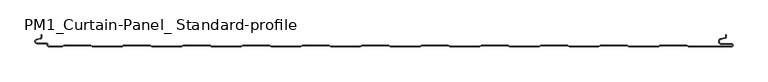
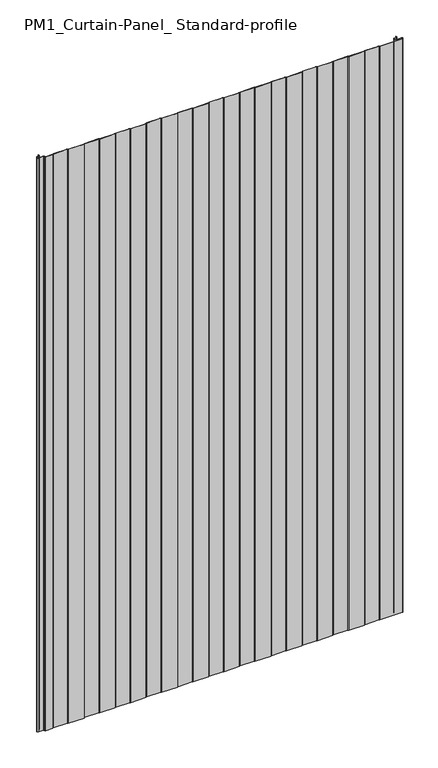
"""IFC4 building model written with IfcOpenShell, lengths in millimetres: plate geometry, PM1_Curtain-Panel_ Standard-profile : ACH_PM1_Acoustic-Sectioning-Panel_60M."""

import ifcopenshell
import ifcopenshell.guid

model = None  # the IFC model being written
_history = None  # IfcOwnerHistory: only IFC2X3 demands one
_inside = {}  # id of a spatial element -> (the spatial element, [elements in it])
_under = {}  # id of a project, library or spatial element -> (it, [spatial elements below it])
_declared = {}  # id of a project -> (the project, [libraries it declares])
_typed = {}  # id of a type object -> (the type object, [elements of that type])
_made_of = {}  # id of a material, layer set ... -> (it, [elements and type objects made of it])


def new_model(schema):
    """Start an empty IFC model of exactly this schema.

    Asked for "IFC4X3", IfcOpenShell would pick the latest addendum, in which some entities
    have other attributes; the version numbers below select the first issue.
    IFC2X3 requires an IfcOwnerHistory on every rooted entity: one is made here for all.
    """
    global model, _history
    if schema == "IFC4X3":
        model = ifcopenshell.file(schema_version=(4, 3, 0, 0))
    else:
        model = ifcopenshell.file(schema=schema)
    _inside.clear()
    _under.clear()
    _declared.clear()
    _typed.clear()
    _made_of.clear()
    _history = None
    if model.schema == "IFC2X3":
        org = make("IfcOrganization", Name="unknown")
        user = make(
            "IfcPersonAndOrganization",
            ThePerson=make("IfcPerson", FamilyName="unknown"),
            TheOrganization=org,
        )
        app = make(
            "IfcApplication",
            ApplicationDeveloper=org,
            Version="unknown",
            ApplicationFullName="unknown",
            ApplicationIdentifier="unknown",
        )
        _history = make(
            "IfcOwnerHistory",
            OwningUser=user,
            OwningApplication=app,
            ChangeAction="ADDED",
            CreationDate=0,
        )
    return model


def make(cls, **values):
    """One entity of the class cls with the attributes given. An attribute that is None is left unset."""
    return model.create_entity(
        cls, **{name: value for name, value in values.items() if value is not None}
    )


def rooted(cls, **values):
    """An entity with a GlobalId (a new one), such as an element, a storey or a relation."""
    return make(cls, GlobalId=ifcopenshell.guid.new(), OwnerHistory=_history, **values)


def si_unit(unit_type, name, prefix=None):
    """IfcSIUnit, for example si_unit("LENGTHUNIT", "METRE", prefix="MILLI")."""
    return make("IfcSIUnit", UnitType=unit_type, Prefix=prefix, Name=name)


def assignment(units):
    """IfcUnitAssignment: the units of a project."""
    return None if units is None else make("IfcUnitAssignment", Units=units)


def point(xyz):
    """IfcCartesianPoint."""
    return None if xyz is None else make("IfcCartesianPoint", Coordinates=xyz)


def direction(xyz):
    """IfcDirection."""
    return None if xyz is None else make("IfcDirection", DirectionRatios=xyz)


def frame(location, z_axis=None, x_axis=None):
    """IfcAxis2Placement3D, a coordinate frame: its origin and axes. An axis left out is left unset."""
    return make(
        "IfcAxis2Placement3D",
        Location=point(location),
        Axis=direction(z_axis),
        RefDirection=direction(x_axis),
    )


def origin():
    """The frame at (0, 0, 0) with its axes left unset."""
    return frame((0.0, 0.0, 0.0))


def place(relative_to, where):
    """IfcLocalPlacement: puts the frame where relative to a parent placement (None: the world)."""
    return make(
        "IfcLocalPlacement", PlacementRelTo=relative_to, RelativePlacement=where
    )


def context(
    kind, dimensions, precision=None, world=None, true_north=None, identifier=None
):
    """IfcGeometricRepresentationContext, for example the 3D "Model" context."""
    return make(
        "IfcGeometricRepresentationContext",
        ContextIdentifier=identifier,
        ContextType=kind,
        CoordinateSpaceDimension=dimensions,
        Precision=precision,
        WorldCoordinateSystem=world,
        TrueNorth=true_north,
    )


def project(units=None, contexts=None):
    """IfcProject with its units and contexts."""
    return rooted(
        "IfcProject",
        Name="project",
        RepresentationContexts=contexts,
        UnitsInContext=assignment(units),
    )


def spatial(cls, under=None, at=None, **own):
    """A site, building, storey or space (cls), placed at a placement, below another one or the project."""
    s = rooted(cls, ObjectPlacement=at, **own)
    if under is not None:
        _under.setdefault(under.id(), (under, []))[1].append(s)
    return s


def polyline(points):
    """IfcPolyline through the points."""
    return make("IfcPolyline", Points=[point(p) for p in points])


def circle_curve(where, radius):
    """IfcCircle in the frame where."""
    return make("IfcCircle", Position=where, Radius=radius)


def shape(context_of_items, identifier, shape_type, items):
    """IfcShapeRepresentation: the items that make up one representation, for example the "Body"."""
    return make(
        "IfcShapeRepresentation",
        ContextOfItems=context_of_items,
        RepresentationIdentifier=identifier,
        RepresentationType=shape_type,
        Items=items,
    )


def source(mapping_origin, context_of_items, identifier, shape_type, items):
    """IfcRepresentationMap: a shape defined once, which mapped items show again and again."""
    return make(
        "IfcRepresentationMap",
        MappingOrigin=mapping_origin,
        MappedRepresentation=shape(context_of_items, identifier, shape_type, items),
    )


def transform(
    local_origin,
    x_axis=None,
    y_axis=None,
    z_axis=None,
    scale=None,
    scale2=None,
    scale3=None,
    uniform=True,
):
    """IfcCartesianTransformationOperator3D, or its non-uniform kind. x_axis, y_axis, z_axis: its Axis1, 2, 3."""
    if uniform:
        return make(
            "IfcCartesianTransformationOperator3D",
            Axis1=direction(x_axis),
            Axis2=direction(y_axis),
            LocalOrigin=point(local_origin),
            Scale=scale,
            Axis3=direction(z_axis),
        )
    return make(
        "IfcCartesianTransformationOperator3DnonUniform",
        Axis1=direction(x_axis),
        Axis2=direction(y_axis),
        LocalOrigin=point(local_origin),
        Scale=scale,
        Axis3=direction(z_axis),
        Scale2=scale2,
        Scale3=scale3,
    )


def mapped(mapping_source, mapping_target):
    """IfcMappedItem: shows the shape of a source again, moved by a transform."""
    return make(
        "IfcMappedItem", MappingSource=mapping_source, MappingTarget=mapping_target
    )


def made_of(thing, what):
    """Note that an element or type object is made of a material, layer set ...; save() writes the relation."""
    if what is not None:
        _made_of.setdefault(what.id(), (what, []))[1].append(thing)
    return thing


def element(
    cls,
    number,
    at=None,
    inside=None,
    cuts=None,
    type_object=None,
    material=None,
    context=None,
    identifier="Body",
    shape_type=None,
    held_by="IfcProductDefinitionShape",
    body=None,
    shapes=None,
    **own,
):
    """One element of the class cls, such as IfcWall. Its Tag is "e" and its number.

    at: its placement. inside: the storey or other place that contains it. cuts: it is an
    opening in that element (IfcRelVoidsElement). A single representation is given by context,
    identifier, shape_type and body (its items); several are given by shapes. held_by: the class
    of the entity that holds the representations. save() writes the other relations.
    """
    e = rooted(cls, Tag="e%d" % number, ObjectPlacement=at, **own)
    if body is not None:
        shapes = [shape(context, identifier, shape_type, body)]
    if shapes is not None:
        e.Representation = make(held_by, Representations=shapes)
    if inside is not None:
        _inside.setdefault(inside.id(), (inside, []))[1].append(e)
    if cuts is not None:
        rooted(
            "IfcRelVoidsElement", RelatingBuildingElement=cuts, RelatedOpeningElement=e
        )
    if type_object is not None:
        _typed.setdefault(type_object.id(), (type_object, []))[1].append(e)
    return made_of(e, material)


def aggregate(whole, parts):
    """IfcRelAggregates: a whole, such as a stair, and the parts it consists of."""
    return rooted("IfcRelAggregates", RelatingObject=whole, RelatedObjects=parts)


def save(model, path):
    """Write the relations noted so far, then the file.

    IfcRelAggregates (storeys below a building ...), IfcRelContainedInSpatialStructure (elements
    in a storey), IfcRelDefinesByType, IfcRelAssociatesMaterial and IfcRelDeclares: one each for
    every whole, place, type object, material and project.
    """
    for whole, parts in _under.values():
        aggregate(whole, parts)
    for where, things in _inside.values():
        rooted(
            "IfcRelContainedInSpatialStructure",
            RelatedElements=things,
            RelatingStructure=where,
        )
    for kind, things in _typed.values():
        rooted("IfcRelDefinesByType", RelatedObjects=things, RelatingType=kind)
    for what, things in _made_of.values():
        rooted("IfcRelAssociatesMaterial", RelatedObjects=things, RelatingMaterial=what)
    for by, libraries in _declared.values():
        rooted("IfcRelDeclares", RelatingContext=by, RelatedDefinitions=libraries)
    model.write(path)


def plane_surface(at):
    """IfcPlane: the flat surface through the origin of the frame at, square to its z axis."""
    return make("IfcPlane", Position=at)


def cylinder_surface(at, radius):
    """IfcCylindricalSurface: all points at the distance radius from the z axis of the frame at."""
    return make("IfcCylindricalSurface", Position=at, Radius=radius)


def revolved_surface(curve, axis_point, axis_direction):
    """IfcSurfaceOfRevolution: the curve turned about the line through axis_point along axis_direction."""
    return make(
        "IfcSurfaceOfRevolution",
        SweptCurve=make("IfcArbitraryOpenProfileDef", ProfileType="CURVE", Curve=curve),
        AxisPosition=make("IfcAxis1Placement", Location=point(axis_point), Axis=direction(axis_direction)),
    )


def advanced_brep(points, edges, surfaces, faces):
    """IfcAdvancedBrep: a solid bounded by faces that lie on surfaces and meet in shared edges.

    An edge is (start, end): straight between two places in points (the first is 0);
    or (start, end, curve); or (start, end, curve, False) where it runs against its curve.
    A face is (place in surfaces, loops), or (place, loops, False) where it looks against
    its surface's normal. A loop lists edges by number (the first is 1), with a minus sign
    where the edge is run from its end to its start. The first loop is the outer one.
    """
    corners = [point(p) for p in points]
    vertices = [make("IfcVertexPoint", VertexGeometry=c) for c in corners]
    made = []
    for start, end, *more in edges:
        made.append(
            make(
                "IfcEdgeCurve",
                EdgeStart=vertices[start],
                EdgeEnd=vertices[end],
                EdgeGeometry=more[0] if more else make("IfcPolyline", Points=[corners[start], corners[end]]),
                SameSense=more[1] if len(more) > 1 else True,
            )
        )
    hull = []
    for where, loops, *sense in faces:
        bounds = []
        for j, loop in enumerate(loops):
            ring = [make("IfcOrientedEdge", EdgeElement=made[abs(k) - 1], Orientation=k > 0) for k in loop]
            bounds.append(
                make(
                    "IfcFaceOuterBound" if j == 0 else "IfcFaceBound",
                    Bound=make("IfcEdgeLoop", EdgeList=ring),
                    Orientation=True,
                )
            )
        hull.append(make("IfcAdvancedFace", Bounds=bounds, FaceSurface=surfaces[where], SameSense=sense[0] if sense else True))
    return make("IfcAdvancedBrep", Outer=make("IfcClosedShell", CfsFaces=hull))


def pm1_curtain_panel_standard_profile_df60e3fd(model_context):
    return source(origin(), model_context, "Body", "AdvancedBrep", [
        advanced_brep(
        [(-562.4, -60.0, 1945.7507136), (-539.3999999, -60.0, 1945.7507136), (-536.8019223, -58.5, 1945.7507136), (-492.0019247, -58.5, 1945.7507136), (-489.4038471, -60.0, 1945.7507136), (-439.3999999, -60.0, 1945.7507136), (-436.8019223, -58.5, 1945.7507136), (-392.0019247, -58.5, 1945.7507136), (-389.4038471, -60.0, 1945.7507136), (-339.3999999, -60.0, 1945.7507136), (-336.8019223, -58.5, 1945.7507136), (-292.0019247, -58.5, 1945.7507136), (-289.4038471, -60.0, 1945.7507136), (-239.3999999, -60.0, 1945.7507136), (-236.8019223, -58.5, 1945.7507136), (-192.0019247, -58.5, 1945.7507136), (-189.4038471, -60.0, 1945.7507136), (-139.3999999, -60.0, 1945.7507136), (-136.8019223, -58.5, 1945.7507136), (-92.0019247, -58.5, 1945.7507136), (-89.4038471, -60.0, 1945.7507136), (-39.3999999, -60.0, 1945.7507136), (-36.8019223, -58.5, 1945.7507136), (7.9980753, -58.5, 1945.7507136), (10.5961529, -60.0, 1945.7507136), (60.6000001, -60.0, 1945.7507136), (63.1980777, -58.5, 1945.7507136), (107.9980753, -58.5, 1945.7507136), (110.5961529, -60.0, 1945.7507136), (160.6000001, -60.0, 1945.7507136), (163.1980777, -58.5, 1945.7507136), (207.9980753, -58.5, 1945.7507136), (210.5961529, -60.0, 1945.7507136), (260.6000001, -60.0, 1945.7507136), (263.1980777, -58.5, 1945.7507136), (307.9980753, -58.5, 1945.7507136), (310.5961529, -60.0, 1945.7507136), (360.6000001, -60.0, 1945.7507136), (363.1980777, -58.5, 1945.7507136), (407.9980753, -58.5, 1945.7507136), (410.5961529, -60.0, 1945.7507136), (460.6000001, -60.0, 1945.7507136), (463.1980777, -58.5, 1945.7507136), (507.9980753, -58.5, 1945.7507136), (510.5961529, -60.0, 1945.7507136), (583.1, -60.0, 1945.7507136), (585.6, -57.5, 1945.7507136), (583.1, -55.0, 1945.7507136), (566.1, -55.0, 1945.7507136), (565.4054075, -47.060769, 1945.7507136), (571.8514851, -45.924152, 1945.7507136), (574.0, -43.363652, 1945.7507136), (574.0, -40.0, 1945.7507136), (573.2, -40.0, 1945.7507136), (573.2, -43.363652, 1945.7507136), (571.7125666, -45.136306, 1945.7507136), (565.266489, -46.2729229, 1945.7507136), (566.1, -55.8, 1945.7507136), (583.1, -55.8, 1945.7507136), (583.1, -59.2, 1945.7507136), (510.8105122, -59.2, 1945.7507136), (508.2124346, -57.7, 1945.7507136), (462.9837184, -57.7, 1945.7507136), (460.3856408, -59.2, 1945.7507136), (410.8105122, -59.2, 1945.7507136), (408.2124346, -57.7, 1945.7507136), (362.9837184, -57.7, 1945.7507136), (360.3856408, -59.2, 1945.7507136), (310.8105122, -59.2, 1945.7507136), (308.2124346, -57.7, 1945.7507136), (262.9837184, -57.7, 1945.7507136), (260.3856408, -59.2, 1945.7507136), (210.8105122, -59.2, 1945.7507136), (208.2124346, -57.7, 1945.7507136), (162.9837184, -57.7, 1945.7507136), (160.3856408, -59.2, 1945.7507136), (110.8105122, -59.2, 1945.7507136), (108.2124346, -57.7, 1945.7507136), (62.9837184, -57.7, 1945.7507136), (60.3856408, -59.2, 1945.7507136), (10.8105122, -59.2, 1945.7507136), (8.2124346, -57.7, 1945.7507136), (-37.0162816, -57.7, 1945.7507136), (-39.6143592, -59.2, 1945.7507136), (-89.1894878, -59.2, 1945.7507136), (-91.7875654, -57.7, 1945.7507136), (-137.0162816, -57.7, 1945.7507136), (-139.6143592, -59.2, 1945.7507136), (-189.1894878, -59.2, 1945.7507136), (-191.7875654, -57.7, 1945.7507136), (-237.0162816, -57.7, 1945.7507136), (-239.6143592, -59.2, 1945.7507136), (-289.1894878, -59.2, 1945.7507136), (-291.7875654, -57.7, 1945.7507136), (-337.0162816, -57.7, 1945.7507136), (-339.6143592, -59.2, 1945.7507136), (-389.1894878, -59.2, 1945.7507136), (-391.7875654, -57.7, 1945.7507136), (-437.0162816, -57.7, 1945.7507136), (-439.6143592, -59.2, 1945.7507136), (-489.1894878, -59.2, 1945.7507136), (-491.7875654, -57.7, 1945.7507136), (-537.0162816, -57.7, 1945.7507136), (-539.6143592, -59.2, 1945.7507136), (-562.4, -59.2, 1945.7507136), (-563.6, -58.0, 1945.7507136), (-563.6, -56.6, 1945.7507136), (-566.4, -53.8, 1945.7507136), (-581.9, -53.8, 1945.7507136), (-582.529863, -48.2717638, 1945.7507136), (-576.370137, -46.849679, 1945.7507136), (-574.2, -44.121443, 1945.7507136), (-574.2, -40.0, 1945.7507136), (-575.0, -40.0, 1945.7507136), (-575.0, -44.121443, 1945.7507136), (-576.5500978, -46.0701831, 1945.7507136), (-582.7098239, -47.492268, 1945.7507136), (-581.9, -54.6, 1945.7507136), (-566.4, -54.6, 1945.7507136), (-564.4, -56.6, 1945.7507136), (-564.4, -58.0, 1945.7507136), (-562.4, -60.0, 0.0), (-564.4, -58.0, 0.0), (-564.4, -56.6, 0.0), (-566.4, -54.6, 0.0), (-581.9, -54.6, 0.0), (-582.7098239, -47.4922678, 0.0), (-576.5500979, -46.070183, 0.0), (-575.0, -44.121443, 0.0), (-575.0, -40.0, 0.0), (-574.2, -40.0, 0.0), (-574.2, -44.121443, 0.0), (-576.370137, -46.8496792, 0.0), (-582.529863, -48.271764, 0.0), (-581.9, -53.8, 0.0), (-566.4, -53.8, 0.0), (-563.6, -56.6, 0.0), (-563.6, -58.0, 0.0), (-562.4, -59.2, 0.0), (-539.6143592, -59.2, 0.0), (-537.0162816, -57.7, 0.0), (-491.7875654, -57.7, 0.0), (-489.1894878, -59.2, 0.0), (-439.6143592, -59.2, 0.0), (-437.0162816, -57.7, 0.0), (-391.7875654, -57.7, 0.0), (-389.1894878, -59.2, 0.0), (-339.6143592, -59.2, 0.0), (-337.0162816, -57.7, 0.0), (-291.7875654, -57.7, 0.0), (-289.1894878, -59.2, 0.0), (-239.6143592, -59.2, 0.0), (-237.0162816, -57.7, 0.0), (-191.7875654, -57.7, 0.0), (-189.1894878, -59.2, 0.0), (-139.6143592, -59.2, 0.0), (-137.0162816, -57.7, 0.0), (-91.7875654, -57.7, 0.0), (-89.1894878, -59.2, 0.0), (-39.6143592, -59.2, 0.0), (-37.0162816, -57.7, 0.0), (8.2124346, -57.7, 0.0), (10.8105122, -59.2, 0.0), (60.3856408, -59.2, 0.0), (62.9837184, -57.7, 0.0), (108.2124346, -57.7, 0.0), (110.8105122, -59.2, 0.0), (160.3856408, -59.2, 0.0), (162.9837184, -57.7, 0.0), (208.2124346, -57.7, 0.0), (210.8105122, -59.2, 0.0), (260.3856408, -59.2, 0.0), (262.9837184, -57.7, 0.0), (308.2124346, -57.7, 0.0), (310.8105122, -59.2, 0.0), (360.3856408, -59.2, 0.0), (362.9837184, -57.7, 0.0), (408.2124346, -57.7, 0.0), (410.8105122, -59.2, 0.0), (460.3856408, -59.2, 0.0), (462.9837184, -57.7, 0.0), (508.2124346, -57.7, 0.0), (510.8105122, -59.2, 0.0), (583.1, -59.2, 0.0), (583.1, -55.8, 0.0), (566.1, -55.8, 0.0), (565.266489, -46.2729227, 0.0), (571.7125666, -45.1363058, 0.0), (573.2, -43.363652, 0.0), (573.2, -40.0, 0.0), (574.0, -40.0, 0.0), (574.0, -43.363652, 0.0), (571.8514851, -45.9241522, 0.0), (565.4054075, -47.0607691, 0.0), (566.1, -55.0, 0.0), (583.1, -55.0, 0.0), (585.6, -57.5, 0.0), (583.1, -60.0, 0.0), (510.5961529, -60.0, 0.0), (507.9980753, -58.5, 0.0), (463.1980777, -58.5, 0.0), (460.6000001, -60.0, 0.0), (410.5961529, -60.0, 0.0), (407.9980753, -58.5, 0.0), (363.1980777, -58.5, 0.0), (360.6000001, -60.0, 0.0), (310.5961529, -60.0, 0.0), (307.9980753, -58.5, 0.0), (263.1980777, -58.5, 0.0), (260.6000001, -60.0, 0.0), (210.5961529, -60.0, 0.0), (207.9980753, -58.5, 0.0), (163.1980777, -58.5, 0.0), (160.6000001, -60.0, 0.0), (110.5961529, -60.0, 0.0), (107.9980753, -58.5, 0.0), (63.1980777, -58.5, 0.0), (60.6000001, -60.0, 0.0), (10.5961529, -60.0, 0.0), (7.9980753, -58.5, 0.0), (-36.8019223, -58.5, 0.0), (-39.3999999, -60.0, 0.0), (-89.4038471, -60.0, 0.0), (-92.0019247, -58.5, 0.0), (-136.8019223, -58.5, 0.0), (-139.3999999, -60.0, 0.0), (-189.4038471, -60.0, 0.0), (-192.0019247, -58.5, 0.0), (-236.8019223, -58.5, 0.0), (-239.3999999, -60.0, 0.0), (-289.4038471, -60.0, 0.0), (-292.0019247, -58.5, 0.0), (-336.8019223, -58.5, 0.0), (-339.3999999, -60.0, 0.0), (-389.4038471, -60.0, 0.0), (-392.0019247, -58.5, 0.0), (-436.8019223, -58.5, 0.0), (-439.3999999, -60.0, 0.0), (-489.4038471, -60.0, 0.0), (-492.0019247, -58.5, 0.0), (-536.8019223, -58.5, 0.0), (-539.3999999, -60.0, 0.0)],
        [
            (0, 1),
            (1, 2),
            (2, 3),
            (3, 4),
            (4, 5),
            (5, 6),
            (6, 7),
            (7, 8),
            (8, 9),
            (9, 10),
            (10, 11),
            (11, 12),
            (12, 13),
            (13, 14),
            (14, 15),
            (15, 16),
            (16, 17),
            (17, 18),
            (18, 19),
            (19, 20),
            (20, 21),
            (21, 22),
            (22, 23),
            (23, 24),
            (24, 25),
            (25, 26),
            (26, 27),
            (27, 28),
            (28, 29),
            (29, 30),
            (30, 31),
            (31, 32),
            (32, 33),
            (33, 34),
            (34, 35),
            (35, 36),
            (36, 37),
            (37, 38),
            (38, 39),
            (39, 40),
            (40, 41),
            (41, 42),
            (42, 43),
            (43, 44),
            (44, 45),
            (45, 46, circle_curve(frame((583.1, -57.5, 1945.7507136), z_axis=(0.0, 0.0, 1.0), x_axis=(1.0, 0.0, 0.0)), 2.5)),
            (46, 47, circle_curve(frame((583.1, -57.5, 1945.7507136), z_axis=(0.0, 0.0, 1.0), x_axis=(1.0, 0.0, 0.0)), 2.5)),
            (47, 48),
            (48, 49, circle_curve(frame((566.1, -51.0, 1945.7507136), z_axis=(0.0, 0.0, -1.0), x_axis=(1.0, 0.0, 0.0)), 4.0)),
            (49, 50),
            (50, 51, circle_curve(frame((571.4, -43.363652, 1945.7507136), z_axis=(0.0, 0.0, 1.0), x_axis=(1.0, 0.0, 0.0)), 2.6)),
            (51, 52),
            (52, 53),
            (53, 54),
            (54, 55, circle_curve(frame((571.4, -43.363652, 1945.7507136), z_axis=(0.0, 0.0, -1.0), x_axis=(1.0, 0.0, 0.0)), 1.8)),
            (55, 56),
            (56, 57, circle_curve(frame((566.1, -51.0, 1945.7507136), z_axis=(0.0, 0.0, 1.0), x_axis=(1.0, 0.0, 0.0)), 4.8)),
            (57, 58),
            (58, 59, circle_curve(frame((583.1, -57.5, 1945.7507136), z_axis=(0.0, 0.0, -1.0), x_axis=(1.0, 0.0, 0.0)), 1.7)),
            (59, 60),
            (60, 61),
            (61, 62),
            (62, 63),
            (63, 64),
            (64, 65),
            (65, 66),
            (66, 67),
            (67, 68),
            (68, 69),
            (69, 70),
            (70, 71),
            (71, 72),
            (72, 73),
            (73, 74),
            (74, 75),
            (75, 76),
            (76, 77),
            (77, 78),
            (78, 79),
            (79, 80),
            (80, 81),
            (81, 82),
            (82, 83),
            (83, 84),
            (84, 85),
            (85, 86),
            (86, 87),
            (87, 88),
            (88, 89),
            (89, 90),
            (90, 91),
            (91, 92),
            (92, 93),
            (93, 94),
            (94, 95),
            (95, 96),
            (96, 97),
            (97, 98),
            (98, 99),
            (99, 100),
            (100, 101),
            (101, 102),
            (102, 103),
            (103, 104),
            (104, 105, circle_curve(frame((-562.4, -58.0, 1945.7507136), z_axis=(0.0, 0.0, -1.0), x_axis=(1.0, 0.0, 0.0)), 1.2)),
            (105, 106),
            (106, 107, circle_curve(frame((-566.4, -56.6, 1945.7507136), z_axis=(0.0, 0.0, 1.0), x_axis=(1.0, 0.0, 0.0)), 2.8)),
            (107, 108),
            (108, 109, circle_curve(frame((-581.9, -51.0, 1945.7507136), z_axis=(0.0, 0.0, -1.0), x_axis=(1.0, 0.0, 0.0)), 2.8)),
            (109, 110),
            (110, 111, circle_curve(frame((-577.0, -44.121443, 1945.7507136), z_axis=(0.0, 0.0, 1.0), x_axis=(1.0, 0.0, 0.0)), 2.8)),
            (111, 112),
            (112, 113),
            (113, 114),
            (114, 115, circle_curve(frame((-577.0, -44.121443, 1945.7507136), z_axis=(0.0, 0.0, -1.0), x_axis=(1.0, 0.0, 0.0)), 2.0)),
            (115, 116),
            (116, 117, circle_curve(frame((-581.9, -51.0, 1945.7507136), z_axis=(0.0, 0.0, 1.0), x_axis=(1.0, 0.0, 0.0)), 3.6)),
            (117, 118),
            (118, 119, circle_curve(frame((-566.4, -56.6, 1945.7507136), z_axis=(0.0, 0.0, -1.0), x_axis=(1.0, 0.0, 0.0)), 2.0)),
            (119, 120),
            (120, 0, circle_curve(frame((-562.4, -58.0, 1945.7507136), z_axis=(0.0, 0.0, 1.0), x_axis=(1.0, 0.0, 0.0)), 2.0)),
            (121, 122, circle_curve(frame((-562.4, -58.0, 0.0), z_axis=(0.0, 0.0, -1.0), x_axis=(1.0, 0.0, 0.0)), 2.0)),
            (122, 123),
            (123, 124, circle_curve(frame((-566.4, -56.6, 0.0), z_axis=(0.0, 0.0, 1.0), x_axis=(1.0, 0.0, 0.0)), 2.0)),
            (124, 125),
            (125, 126, circle_curve(frame((-581.9, -51.0, 0.0), z_axis=(0.0, 0.0, -1.0), x_axis=(1.0, 0.0, 0.0)), 3.6)),
            (126, 127),
            (127, 128, circle_curve(frame((-577.0, -44.121443, 0.0), z_axis=(0.0, 0.0, 1.0), x_axis=(1.0, 0.0, 0.0)), 2.0)),
            (128, 129),
            (129, 130),
            (130, 131),
            (131, 132, circle_curve(frame((-577.0, -44.121443, 0.0), z_axis=(0.0, 0.0, -1.0), x_axis=(1.0, 0.0, 0.0)), 2.8)),
            (132, 133),
            (133, 134, circle_curve(frame((-581.9, -51.0, 0.0), z_axis=(0.0, 0.0, 1.0), x_axis=(1.0, 0.0, 0.0)), 2.8)),
            (134, 135),
            (135, 136, circle_curve(frame((-566.4, -56.6, 0.0), z_axis=(0.0, 0.0, -1.0), x_axis=(1.0, 0.0, 0.0)), 2.8)),
            (136, 137),
            (137, 138, circle_curve(frame((-562.4, -58.0, 0.0), z_axis=(0.0, 0.0, 1.0), x_axis=(1.0, 0.0, 0.0)), 1.2)),
            (138, 139),
            (139, 140),
            (140, 141),
            (141, 142),
            (142, 143),
            (143, 144),
            (144, 145),
            (145, 146),
            (146, 147),
            (147, 148),
            (148, 149),
            (149, 150),
            (150, 151),
            (151, 152),
            (152, 153),
            (153, 154),
            (154, 155),
            (155, 156),
            (156, 157),
            (157, 158),
            (158, 159),
            (159, 160),
            (160, 161),
            (161, 162),
            (162, 163),
            (163, 164),
            (164, 165),
            (165, 166),
            (166, 167),
            (167, 168),
            (168, 169),
            (169, 170),
            (170, 171),
            (171, 172),
            (172, 173),
            (173, 174),
            (174, 175),
            (175, 176),
            (176, 177),
            (177, 178),
            (178, 179),
            (179, 180),
            (180, 181),
            (181, 182),
            (182, 183),
            (183, 184, circle_curve(frame((583.1, -57.5, 0.0), z_axis=(0.0, 0.0, 1.0), x_axis=(1.0, 0.0, 0.0)), 1.7)),
            (184, 185),
            (185, 186, circle_curve(frame((566.1, -51.0, 0.0), z_axis=(0.0, 0.0, -1.0), x_axis=(1.0, 0.0, 0.0)), 4.8)),
            (186, 187),
            (187, 188, circle_curve(frame((571.4, -43.363652, 0.0), z_axis=(0.0, 0.0, 1.0), x_axis=(1.0, 0.0, 0.0)), 1.8)),
            (188, 189),
            (189, 190),
            (190, 191),
            (191, 192, circle_curve(frame((571.4, -43.363652, 0.0), z_axis=(0.0, 0.0, -1.0), x_axis=(1.0, 0.0, 0.0)), 2.6)),
            (192, 193),
            (193, 194, circle_curve(frame((566.1, -51.0, 0.0), z_axis=(0.0, 0.0, 1.0), x_axis=(1.0, 0.0, 0.0)), 4.0)),
            (194, 195),
            (195, 196, circle_curve(frame((583.1, -57.5, 0.0), z_axis=(0.0, 0.0, -1.0), x_axis=(1.0, 0.0, 0.0)), 2.5)),
            (196, 197, circle_curve(frame((583.1, -57.5, 0.0), z_axis=(0.0, 0.0, -1.0), x_axis=(1.0, 0.0, 0.0)), 2.5)),
            (197, 198),
            (198, 199),
            (199, 200),
            (200, 201),
            (201, 202),
            (202, 203),
            (203, 204),
            (204, 205),
            (205, 206),
            (206, 207),
            (207, 208),
            (208, 209),
            (209, 210),
            (210, 211),
            (211, 212),
            (212, 213),
            (213, 214),
            (214, 215),
            (215, 216),
            (216, 217),
            (217, 218),
            (218, 219),
            (219, 220),
            (220, 221),
            (221, 222),
            (222, 223),
            (223, 224),
            (224, 225),
            (225, 226),
            (226, 227),
            (227, 228),
            (228, 229),
            (229, 230),
            (230, 231),
            (231, 232),
            (232, 233),
            (233, 234),
            (234, 235),
            (235, 236),
            (236, 237),
            (237, 238),
            (238, 239),
            (239, 240),
            (240, 241),
            (241, 121),
            (0, 121),
            (241, 1),
            (240, 2),
            (239, 3),
            (238, 4),
            (237, 5),
            (236, 6),
            (235, 7),
            (234, 8),
            (233, 9),
            (232, 10),
            (231, 11),
            (230, 12),
            (229, 13),
            (228, 14),
            (227, 15),
            (226, 16),
            (225, 17),
            (224, 18),
            (223, 19),
            (222, 20),
            (221, 21),
            (220, 22),
            (219, 23),
            (218, 24),
            (217, 25),
            (216, 26),
            (215, 27),
            (214, 28),
            (213, 29),
            (212, 30),
            (211, 31),
            (210, 32),
            (209, 33),
            (208, 34),
            (207, 35),
            (206, 36),
            (205, 37),
            (204, 38),
            (203, 39),
            (202, 40),
            (201, 41),
            (200, 42),
            (199, 43),
            (198, 44),
            (197, 45),
            (195, 47),
            (194, 48),
            (193, 49),
            (192, 50),
            (191, 51),
            (190, 52),
            (189, 53),
            (188, 54),
            (187, 55),
            (186, 56),
            (185, 57),
            (184, 58),
            (183, 59),
            (182, 60),
            (181, 61),
            (180, 62),
            (179, 63),
            (178, 64),
            (177, 65),
            (176, 66),
            (175, 67),
            (174, 68),
            (173, 69),
            (172, 70),
            (171, 71),
            (170, 72),
            (169, 73),
            (168, 74),
            (167, 75),
            (166, 76),
            (165, 77),
            (164, 78),
            (163, 79),
            (162, 80),
            (161, 81),
            (160, 82),
            (159, 83),
            (158, 84),
            (157, 85),
            (156, 86),
            (155, 87),
            (154, 88),
            (153, 89),
            (152, 90),
            (151, 91),
            (150, 92),
            (149, 93),
            (148, 94),
            (147, 95),
            (146, 96),
            (145, 97),
            (144, 98),
            (143, 99),
            (142, 100),
            (141, 101),
            (140, 102),
            (139, 103),
            (138, 104),
            (137, 105),
            (136, 106),
            (135, 107),
            (134, 108),
            (133, 109),
            (132, 110),
            (131, 111),
            (130, 112),
            (129, 113),
            (128, 114),
            (127, 115),
            (126, 116),
            (125, 117),
            (124, 118),
            (123, 119),
            (122, 120),
        ],
        [
            plane_surface(frame((-575.0, -60.0, 1945.7507136), z_axis=(0.0, 0.0, 1.0), x_axis=(0.0, 1.0, 0.0))),
            plane_surface(frame((-575.0, -60.0, 0.0), z_axis=(0.0, 0.0, -1.0), x_axis=(0.0, 1.0, 0.0))),
            plane_surface(frame((-562.4, -60.0, 1945.7507136), z_axis=(0.0, -1.0, 0.0), x_axis=(0.0, 0.0, -1.0))),
            plane_surface(frame((-539.3999999, -60.0, 1945.7507136), z_axis=(0.49999979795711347, -0.8660255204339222, 0.0), x_axis=(0.0, 0.0, -1.0))),
            plane_surface(frame((-536.8019223, -58.5, 1945.7507136), z_axis=(0.0, -1.0, 0.0), x_axis=(0.0, 0.0, -1.0))),
            plane_surface(frame((-492.0019247, -58.5, 1945.7507136), z_axis=(-0.49999979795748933, -0.8660255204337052, 0.0), x_axis=(0.0, 0.0, -1.0))),
            plane_surface(frame((-489.4038471, -60.0, 1945.7507136), z_axis=(0.0, -1.0, 0.0), x_axis=(0.0, 0.0, -1.0))),
            plane_surface(frame((-439.3999999, -60.0, 1945.7507136), z_axis=(0.49999979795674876, -0.8660255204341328, 0.0), x_axis=(0.0, 0.0, -1.0))),
            plane_surface(frame((-436.8019223, -58.5, 1945.7507136), z_axis=(0.0, -1.0, 0.0), x_axis=(0.0, 0.0, -1.0))),
            plane_surface(frame((-392.0019247, -58.5, 1945.7507136), z_axis=(-0.4999997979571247, -0.8660255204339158, 0.0), x_axis=(0.0, 0.0, -1.0))),
            plane_surface(frame((-389.4038471, -60.0, 1945.7507136), z_axis=(0.0, -1.0, 0.0), x_axis=(0.0, 0.0, -1.0))),
            plane_surface(frame((-339.3999999, -60.0, 1945.7507136), z_axis=(0.49999979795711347, -0.8660255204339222, 0.0), x_axis=(0.0, 0.0, -1.0))),
            plane_surface(frame((-336.8019223, -58.5, 1945.7507136), z_axis=(0.0, -1.0, 0.0), x_axis=(0.0, 0.0, -1.0))),
            plane_surface(frame((-292.0019247, -58.5, 1945.7507136), z_axis=(-0.4999997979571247, -0.8660255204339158, 0.0), x_axis=(0.0, 0.0, -1.0))),
            plane_surface(frame((-289.4038471, -60.0, 1945.7507136), z_axis=(0.0, -1.0, 0.0), x_axis=(0.0, 0.0, -1.0))),
            plane_surface(frame((-239.3999999, -60.0, 1945.7507136), z_axis=(0.49999979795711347, -0.8660255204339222, 0.0), x_axis=(0.0, 0.0, -1.0))),
            plane_surface(frame((-236.8019223, -58.5, 1945.7507136), z_axis=(0.0, -1.0, 0.0), x_axis=(0.0, 0.0, -1.0))),
            plane_surface(frame((-192.0019247, -58.5, 1945.7507136), z_axis=(-0.49999979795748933, -0.8660255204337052, 0.0), x_axis=(0.0, 0.0, -1.0))),
            plane_surface(frame((-189.4038471, -60.0, 1945.7507136), z_axis=(0.0, -1.0, 0.0), x_axis=(0.0, 0.0, -1.0))),
            plane_surface(frame((-139.3999999, -60.0, 1945.7507136), z_axis=(0.49999979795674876, -0.8660255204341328, 0.0), x_axis=(0.0, 0.0, -1.0))),
            plane_surface(frame((-136.8019223, -58.5, 1945.7507136), z_axis=(0.0, -1.0, 0.0), x_axis=(0.0, 0.0, -1.0))),
            plane_surface(frame((-92.0019247, -58.5, 1945.7507136), z_axis=(-0.4999997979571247, -0.8660255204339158, 0.0), x_axis=(0.0, 0.0, -1.0))),
            plane_surface(frame((-89.4038471, -60.0, 1945.7507136), z_axis=(0.0, -1.0, 0.0), x_axis=(0.0, 0.0, -1.0))),
            plane_surface(frame((-39.3999999, -60.0, 1945.7507136), z_axis=(0.49999979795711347, -0.8660255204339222, 0.0), x_axis=(0.0, 0.0, -1.0))),
            plane_surface(frame((-36.8019223, -58.5, 1945.7507136), z_axis=(0.0, -1.0, 0.0), x_axis=(0.0, 0.0, -1.0))),
            plane_surface(frame((7.9980753, -58.5, 1945.7507136), z_axis=(-0.4999997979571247, -0.8660255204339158, 0.0), x_axis=(0.0, 0.0, -1.0))),
            plane_surface(frame((10.5961529, -60.0, 1945.7507136), z_axis=(0.0, -1.0, 0.0), x_axis=(0.0, 0.0, -1.0))),
            plane_surface(frame((60.6000001, -60.0, 1945.7507136), z_axis=(0.49999979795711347, -0.8660255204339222, 0.0), x_axis=(0.0, 0.0, -1.0))),
            plane_surface(frame((63.1980777, -58.5, 1945.7507136), z_axis=(0.0, -1.0, 0.0), x_axis=(0.0, 0.0, -1.0))),
            plane_surface(frame((107.9980753, -58.5, 1945.7507136), z_axis=(-0.49999979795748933, -0.8660255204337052, 0.0), x_axis=(0.0, 0.0, -1.0))),
            plane_surface(frame((110.5961529, -60.0, 1945.7507136), z_axis=(0.0, -1.0, 0.0), x_axis=(0.0, 0.0, -1.0))),
            plane_surface(frame((160.6000001, -60.0, 1945.7507136), z_axis=(0.49999979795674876, -0.8660255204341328, 0.0), x_axis=(0.0, 0.0, -1.0))),
            plane_surface(frame((163.1980777, -58.5, 1945.7507136), z_axis=(0.0, -1.0, 0.0), x_axis=(0.0, 0.0, -1.0))),
            plane_surface(frame((207.9980753, -58.5, 1945.7507136), z_axis=(-0.4999997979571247, -0.8660255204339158, 0.0), x_axis=(0.0, 0.0, -1.0))),
            plane_surface(frame((210.5961529, -60.0, 1945.7507136), z_axis=(0.0, -1.0, 0.0), x_axis=(0.0, 0.0, -1.0))),
            plane_surface(frame((260.6000001, -60.0, 1945.7507136), z_axis=(0.49999979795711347, -0.8660255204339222, 0.0), x_axis=(0.0, 0.0, -1.0))),
            plane_surface(frame((263.1980777, -58.5, 1945.7507136), z_axis=(0.0, -1.0, 0.0), x_axis=(0.0, 0.0, -1.0))),
            plane_surface(frame((307.9980753, -58.5, 1945.7507136), z_axis=(-0.4999997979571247, -0.8660255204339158, 0.0), x_axis=(0.0, 0.0, -1.0))),
            plane_surface(frame((310.5961529, -60.0, 1945.7507136), z_axis=(0.0, -1.0, 0.0), x_axis=(0.0, 0.0, -1.0))),
            plane_surface(frame((360.6000001, -60.0, 1945.7507136), z_axis=(0.49999979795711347, -0.8660255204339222, 0.0), x_axis=(0.0, 0.0, -1.0))),
            plane_surface(frame((363.1980777, -58.5, 1945.7507136), z_axis=(0.0, -1.0, 0.0), x_axis=(0.0, 0.0, -1.0))),
            plane_surface(frame((407.9980753, -58.5, 1945.7507136), z_axis=(-0.49999979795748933, -0.8660255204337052, 0.0), x_axis=(0.0, 0.0, -1.0))),
            plane_surface(frame((410.5961529, -60.0, 1945.7507136), z_axis=(0.0, -1.0, 0.0), x_axis=(0.0, 0.0, -1.0))),
            plane_surface(frame((460.6000001, -60.0, 1945.7507136), z_axis=(0.49999979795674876, -0.8660255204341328, 0.0), x_axis=(0.0, 0.0, -1.0))),
            plane_surface(frame((463.1980777, -58.5, 1945.7507136), z_axis=(0.0, -1.0, 0.0), x_axis=(0.0, 0.0, -1.0))),
            plane_surface(frame((507.9980753, -58.5, 1945.7507136), z_axis=(-0.4999997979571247, -0.8660255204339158, 0.0), x_axis=(0.0, 0.0, -1.0))),
            plane_surface(frame((560.890897, -60.0, 1945.7507136), z_axis=(0.0, -1.0, 0.0), x_axis=(0.0, 0.0, -1.0))),
            cylinder_surface(frame((583.1, -57.5, 1945.7507136), z_axis=(0.0, 0.0, 1.0), x_axis=(1.0, 0.0, 0.0)), 2.5),
            plane_surface(frame((583.1, -55.0, 1945.7507136), z_axis=(0.0, 1.0, 0.0), x_axis=(0.0, 0.0, -1.0))),
            revolved_surface(polyline([(570.1, -51.0, 0.0), (570.1, -51.0, 1945.7507136)]), (566.1, -51.0, 1945.7507136), (0.0, 0.0, -1.0)),
            plane_surface(frame((565.4054075, -47.0607691, 1945.7507136), z_axis=(0.17364813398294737, -0.9848077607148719, 0.0), x_axis=(0.0, 0.0, -1.0))),
            cylinder_surface(frame((571.4, -43.363652, 1945.7507136), z_axis=(0.0, 0.0, 1.0), x_axis=(1.0, 0.0, 0.0)), 2.6),
            plane_surface(frame((574.0, -43.363652, 1945.7507136), z_axis=(1.0, 0.0, 0.0), x_axis=(0.0, 0.0, -1.0))),
            plane_surface(frame((574.0, -40.0, 1945.7507136), z_axis=(0.0, 1.0, 0.0), x_axis=(0.0, 0.0, -1.0))),
            plane_surface(frame((573.2, -40.0, 1945.7507136), z_axis=(-1.0, 0.0, 0.0), x_axis=(0.0, 0.0, -1.0))),
            revolved_surface(polyline([(573.1999999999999, -43.363652, 0.0), (573.1999999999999, -43.363652, 1945.7507136)]), (571.4, -43.363652, 1945.7507136), (0.0, 0.0, -1.0)),
            plane_surface(frame((571.7125666, -45.1363058, 1945.7507136), z_axis=(-0.17364813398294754, 0.9848077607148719, 0.0), x_axis=(0.0, 0.0, -1.0))),
            cylinder_surface(frame((566.1, -51.0, 1945.7507136), z_axis=(0.0, 0.0, 1.0), x_axis=(1.0, 0.0, 0.0)), 4.8),
            plane_surface(frame((566.1, -55.8, 1945.7507136), z_axis=(0.0, -1.0, 0.0), x_axis=(0.0, 0.0, -1.0))),
            revolved_surface(polyline([(584.8000000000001, -57.5, 0.0), (584.8000000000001, -57.5, 1945.7507136)]), (583.1, -57.5, 1945.7507136), (0.0, 0.0, -1.0)),
            plane_surface(frame((560.890897, -59.2, 1945.7507136), z_axis=(0.0, 1.0, 0.0), x_axis=(0.0, 0.0, -1.0))),
            plane_surface(frame((510.8105122, -59.2, 1945.7507136), z_axis=(0.49999979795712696, 0.8660255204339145, 0.0), x_axis=(0.0, 0.0, -1.0))),
            plane_surface(frame((508.2124346, -57.7, 1945.7507136), z_axis=(0.0, 1.0, 0.0), x_axis=(0.0, 0.0, -1.0))),
            plane_surface(frame((462.9837184, -57.7, 1945.7507136), z_axis=(-0.4999997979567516, 0.8660255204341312, 0.0), x_axis=(0.0, 0.0, -1.0))),
            plane_surface(frame((460.3856408, -59.2, 1945.7507136), z_axis=(0.0, 1.0, 0.0), x_axis=(0.0, 0.0, -1.0))),
            plane_surface(frame((410.8105122, -59.2, 1945.7507136), z_axis=(0.4999997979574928, 0.8660255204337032, 0.0), x_axis=(0.0, 0.0, -1.0))),
            plane_surface(frame((408.2124346, -57.7, 1945.7507136), z_axis=(0.0, 1.0, 0.0), x_axis=(0.0, 0.0, -1.0))),
            plane_surface(frame((362.9837184, -57.7, 1945.7507136), z_axis=(-0.49999979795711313, 0.8660255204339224, 0.0), x_axis=(0.0, 0.0, -1.0))),
            plane_surface(frame((360.3856408, -59.2, 1945.7507136), z_axis=(0.0, 1.0, 0.0), x_axis=(0.0, 0.0, -1.0))),
            plane_surface(frame((310.8105122, -59.2, 1945.7507136), z_axis=(0.4999997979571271, 0.8660255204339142, 0.0), x_axis=(0.0, 0.0, -1.0))),
            plane_surface(frame((308.2124346, -57.7, 1945.7507136), z_axis=(0.0, 1.0, 0.0), x_axis=(0.0, 0.0, -1.0))),
            plane_surface(frame((262.9837184, -57.7, 1945.7507136), z_axis=(-0.49999979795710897, 0.8660255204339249, 0.0), x_axis=(0.0, 0.0, -1.0))),
            plane_surface(frame((260.3856408, -59.2, 1945.7507136), z_axis=(0.0, 1.0, 0.0), x_axis=(0.0, 0.0, -1.0))),
            plane_surface(frame((210.8105122, -59.2, 1945.7507136), z_axis=(0.4999997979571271, 0.8660255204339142, 0.0), x_axis=(0.0, 0.0, -1.0))),
            plane_surface(frame((208.2124346, -57.7, 1945.7507136), z_axis=(0.0, 1.0, 0.0), x_axis=(0.0, 0.0, -1.0))),
            plane_surface(frame((162.9837184, -57.7, 1945.7507136), z_axis=(-0.4999997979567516, 0.8660255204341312, 0.0), x_axis=(0.0, 0.0, -1.0))),
            plane_surface(frame((160.3856408, -59.2, 1945.7507136), z_axis=(0.0, 1.0, 0.0), x_axis=(0.0, 0.0, -1.0))),
            plane_surface(frame((110.8105122, -59.2, 1945.7507136), z_axis=(0.49999979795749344, 0.8660255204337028, 0.0), x_axis=(0.0, 0.0, -1.0))),
            plane_surface(frame((108.2124346, -57.7, 1945.7507136), z_axis=(0.0, 1.0, 0.0), x_axis=(0.0, 0.0, -1.0))),
            plane_surface(frame((62.9837184, -57.7, 1945.7507136), z_axis=(-0.49999979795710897, 0.8660255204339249, 0.0), x_axis=(0.0, 0.0, -1.0))),
            plane_surface(frame((60.3856408, -59.2, 1945.7507136), z_axis=(0.0, 1.0, 0.0), x_axis=(0.0, 0.0, -1.0))),
            plane_surface(frame((10.8105122, -59.2, 1945.7507136), z_axis=(0.4999997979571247, 0.8660255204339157, 0.0), x_axis=(0.0, 0.0, -1.0))),
            plane_surface(frame((8.2124346, -57.7, 1945.7507136), z_axis=(0.0, 1.0, 0.0), x_axis=(0.0, 0.0, -1.0))),
            plane_surface(frame((-37.0162816, -57.7, 1945.7507136), z_axis=(-0.49999979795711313, 0.8660255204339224, 0.0), x_axis=(0.0, 0.0, -1.0))),
            plane_surface(frame((-39.6143592, -59.2, 1945.7507136), z_axis=(0.0, 1.0, 0.0), x_axis=(0.0, 0.0, -1.0))),
            plane_surface(frame((-89.1894878, -59.2, 1945.7507136), z_axis=(0.4999997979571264, 0.8660255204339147, 0.0), x_axis=(0.0, 0.0, -1.0))),
            plane_surface(frame((-91.7875654, -57.7, 1945.7507136), z_axis=(0.0, 1.0, 0.0), x_axis=(0.0, 0.0, -1.0))),
            plane_surface(frame((-137.0162816, -57.7, 1945.7507136), z_axis=(-0.49999979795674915, 0.8660255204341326, 0.0), x_axis=(0.0, 0.0, -1.0))),
            plane_surface(frame((-139.6143592, -59.2, 1945.7507136), z_axis=(0.0, 1.0, 0.0), x_axis=(0.0, 0.0, -1.0))),
            plane_surface(frame((-189.1894878, -59.2, 1945.7507136), z_axis=(0.49999979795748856, 0.8660255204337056, 0.0), x_axis=(0.0, 0.0, -1.0))),
            plane_surface(frame((-191.7875654, -57.7, 1945.7507136), z_axis=(0.0, 1.0, 0.0), x_axis=(0.0, 0.0, -1.0))),
            plane_surface(frame((-237.0162816, -57.7, 1945.7507136), z_axis=(-0.4999997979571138, 0.866025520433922, 0.0), x_axis=(0.0, 0.0, -1.0))),
            plane_surface(frame((-239.6143592, -59.2, 1945.7507136), z_axis=(0.0, 1.0, 0.0), x_axis=(0.0, 0.0, -1.0))),
            plane_surface(frame((-289.1894878, -59.2, 1945.7507136), z_axis=(0.49999979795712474, 0.8660255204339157, 0.0), x_axis=(0.0, 0.0, -1.0))),
            plane_surface(frame((-291.7875654, -57.7, 1945.7507136), z_axis=(0.0, 1.0, 0.0), x_axis=(0.0, 0.0, -1.0))),
            plane_surface(frame((-337.0162816, -57.7, 1945.7507136), z_axis=(-0.49999979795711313, 0.8660255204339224, 0.0), x_axis=(0.0, 0.0, -1.0))),
            plane_surface(frame((-339.6143592, -59.2, 1945.7507136), z_axis=(0.0, 1.0, 0.0), x_axis=(0.0, 0.0, -1.0))),
            plane_surface(frame((-389.1894878, -59.2, 1945.7507136), z_axis=(0.49999979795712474, 0.8660255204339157, 0.0), x_axis=(0.0, 0.0, -1.0))),
            plane_surface(frame((-391.7875654, -57.7, 1945.7507136), z_axis=(0.0, 1.0, 0.0), x_axis=(0.0, 0.0, -1.0))),
            plane_surface(frame((-437.0162816, -57.7, 1945.7507136), z_axis=(-0.49999979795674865, 0.8660255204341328, 0.0), x_axis=(0.0, 0.0, -1.0))),
            plane_surface(frame((-439.6143592, -59.2, 1945.7507136), z_axis=(0.0, 1.0, 0.0), x_axis=(0.0, 0.0, -1.0))),
            plane_surface(frame((-489.1894878, -59.2, 1945.7507136), z_axis=(0.49999979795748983, 0.866025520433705, 0.0), x_axis=(0.0, 0.0, -1.0))),
            plane_surface(frame((-491.7875654, -57.7, 1945.7507136), z_axis=(0.0, 1.0, 0.0), x_axis=(0.0, 0.0, -1.0))),
            plane_surface(frame((-537.0162816, -57.7, 1945.7507136), z_axis=(-0.49999979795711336, 0.8660255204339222, 0.0), x_axis=(0.0, 0.0, -1.0))),
            plane_surface(frame((-539.6143592, -59.2, 1945.7507136), z_axis=(0.0, 1.0, 0.0), x_axis=(0.0, 0.0, -1.0))),
            revolved_surface(polyline([(-561.1999999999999, -58.0, 0.0), (-561.1999999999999, -58.0, 1945.7507136)]), (-562.4, -58.0, 1945.7507136), (0.0, 0.0, -1.0)),
            plane_surface(frame((-563.6, -58.0, 1945.7507136), z_axis=(1.0, 0.0, 0.0), x_axis=(0.0, 0.0, -1.0))),
            cylinder_surface(frame((-566.4, -56.6, 1945.7507136), z_axis=(0.0, 0.0, 1.0), x_axis=(1.0, 0.0, 0.0)), 2.8),
            plane_surface(frame((-566.4, -53.8, 1945.7507136), z_axis=(0.0, 1.0, 0.0), x_axis=(0.0, 0.0, -1.0))),
            revolved_surface(polyline([(-579.1, -51.0, 0.0), (-579.1, -51.0, 1945.7507136)]), (-581.9, -51.0, 1945.7507136), (0.0, 0.0, -1.0)),
            plane_surface(frame((-582.529863, -48.271764, 1945.7507136), z_axis=(0.2249510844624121, -0.9743700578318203, 0.0), x_axis=(0.0, 0.0, -1.0))),
            cylinder_surface(frame((-577.0, -44.121443, 1945.7507136), z_axis=(0.0, 0.0, 1.0), x_axis=(1.0, 0.0, 0.0)), 2.8),
            plane_surface(frame((-574.2, -44.121443, 1945.7507136), z_axis=(1.0, 0.0, 0.0), x_axis=(0.0, 0.0, -1.0))),
            plane_surface(frame((-574.2, -40.0, 1945.7507136), z_axis=(0.0, 1.0, 0.0), x_axis=(0.0, 0.0, -1.0))),
            plane_surface(frame((-575.0, -40.0, 1945.7507136), z_axis=(-1.0, 0.0, 0.0), x_axis=(0.0, 0.0, -1.0))),
            revolved_surface(polyline([(-575.0, -44.121443, 0.0), (-575.0, -44.121443, 1945.7507136)]), (-577.0, -44.121443, 1945.7507136), (0.0, 0.0, -1.0)),
            plane_surface(frame((-576.5500979, -46.070183, 1945.7507136), z_axis=(-0.22495108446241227, 0.9743700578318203, 0.0), x_axis=(0.0, 0.0, -1.0))),
            cylinder_surface(frame((-581.9, -51.0, 1945.7507136), z_axis=(0.0, 0.0, 1.0), x_axis=(1.0, 0.0, 0.0)), 3.6),
            plane_surface(frame((-581.9, -54.6, 1945.7507136), z_axis=(0.0, -1.0, 0.0), x_axis=(0.0, 0.0, -1.0))),
            revolved_surface(polyline([(-564.4, -56.6, 0.0), (-564.4, -56.6, 1945.7507136)]), (-566.4, -56.6, 1945.7507136), (0.0, 0.0, -1.0)),
            plane_surface(frame((-564.4, -56.6, 1945.7507136), z_axis=(-1.0, 0.0, 0.0), x_axis=(0.0, 0.0, -1.0))),
            cylinder_surface(frame((-562.4, -58.0, 1945.7507136), z_axis=(0.0, 0.0, 1.0), x_axis=(1.0, 0.0, 0.0)), 2.0),
        ],
        [
            (0, [[1, 2, 3, 4, 5, 6, 7, 8, 9, 10, 11, 12, 13, 14, 15, 16, 17, 18, 19, 20, 21, 22, 23, 24, 25, 26, 27, 28, 29, 30, 31, 32, 33, 34, 35, 36, 37, 38, 39, 40, 41, 42, 43, 44, 45, 46, 47, 48, 49, 50, 51, 52, 53, 54, 55, 56, 57, 58, 59, 60, 61, 62, 63, 64, 65, 66, 67, 68, 69, 70, 71, 72, 73, 74, 75, 76, 77, 78, 79, 80, 81, 82, 83, 84, 85, 86, 87, 88, 89, 90, 91, 92, 93, 94, 95, 96, 97, 98, 99, 100, 101, 102, 103, 104, 105, 106, 107, 108, 109, 110, 111, 112, 113, 114, 115, 116, 117, 118, 119, 120, 121]]),
            (1, [[122, 123, 124, 125, 126, 127, 128, 129, 130, 131, 132, 133, 134, 135, 136, 137, 138, 139, 140, 141, 142, 143, 144, 145, 146, 147, 148, 149, 150, 151, 152, 153, 154, 155, 156, 157, 158, 159, 160, 161, 162, 163, 164, 165, 166, 167, 168, 169, 170, 171, 172, 173, 174, 175, 176, 177, 178, 179, 180, 181, 182, 183, 184, 185, 186, 187, 188, 189, 190, 191, 192, 193, 194, 195, 196, 197, 198, 199, 200, 201, 202, 203, 204, 205, 206, 207, 208, 209, 210, 211, 212, 213, 214, 215, 216, 217, 218, 219, 220, 221, 222, 223, 224, 225, 226, 227, 228, 229, 230, 231, 232, 233, 234, 235, 236, 237, 238, 239, 240, 241, 242]]),
            (2, [[-1, 243, -242, 244]]),
            (3, [[-2, -244, -241, 245]]),
            (4, [[-3, -245, -240, 246]]),
            (5, [[-4, -246, -239, 247]]),
            (6, [[-5, -247, -238, 248]]),
            (7, [[-6, -248, -237, 249]]),
            (8, [[-7, -249, -236, 250]]),
            (9, [[-8, -250, -235, 251]]),
            (10, [[-9, -251, -234, 252]]),
            (11, [[-10, -252, -233, 253]]),
            (12, [[-11, -253, -232, 254]]),
            (13, [[-12, -254, -231, 255]]),
            (14, [[-13, -255, -230, 256]]),
            (15, [[-14, -256, -229, 257]]),
            (16, [[-15, -257, -228, 258]]),
            (17, [[-16, -258, -227, 259]]),
            (18, [[-17, -259, -226, 260]]),
            (19, [[-18, -260, -225, 261]]),
            (20, [[-19, -261, -224, 262]]),
            (21, [[-20, -262, -223, 263]]),
            (22, [[-21, -263, -222, 264]]),
            (23, [[-22, -264, -221, 265]]),
            (24, [[-23, -265, -220, 266]]),
            (25, [[-24, -266, -219, 267]]),
            (26, [[-25, -267, -218, 268]]),
            (27, [[-26, -268, -217, 269]]),
            (28, [[-27, -269, -216, 270]]),
            (29, [[-28, -270, -215, 271]]),
            (30, [[-29, -271, -214, 272]]),
            (31, [[-30, -272, -213, 273]]),
            (32, [[-31, -273, -212, 274]]),
            (33, [[-32, -274, -211, 275]]),
            (34, [[-33, -275, -210, 276]]),
            (35, [[-34, -276, -209, 277]]),
            (36, [[-35, -277, -208, 278]]),
            (37, [[-36, -278, -207, 279]]),
            (38, [[-37, -279, -206, 280]]),
            (39, [[-38, -280, -205, 281]]),
            (40, [[-39, -281, -204, 282]]),
            (41, [[-40, -282, -203, 283]]),
            (42, [[-41, -283, -202, 284]]),
            (43, [[-42, -284, -201, 285]]),
            (44, [[-43, -285, -200, 286]]),
            (45, [[-44, -286, -199, 287]]),
            (46, [[-45, -287, -198, 288]]),
            (47, [[-288, -197, -196, 289, -47, -46]]),
            (48, [[-48, -289, -195, 290]]),
            (49, [[-49, -290, -194, 291]]),
            (50, [[-50, -291, -193, 292]]),
            (51, [[-51, -292, -192, 293]]),
            (52, [[-52, -293, -191, 294]]),
            (53, [[-53, -294, -190, 295]]),
            (54, [[-54, -295, -189, 296]]),
            (55, [[-55, -296, -188, 297]]),
            (56, [[-56, -297, -187, 298]]),
            (57, [[-57, -298, -186, 299]]),
            (58, [[-58, -299, -185, 300]]),
            (59, [[-59, -300, -184, 301]]),
            (60, [[-60, -301, -183, 302]]),
            (61, [[-61, -302, -182, 303]]),
            (62, [[-62, -303, -181, 304]]),
            (63, [[-63, -304, -180, 305]]),
            (64, [[-64, -305, -179, 306]]),
            (65, [[-65, -306, -178, 307]]),
            (66, [[-66, -307, -177, 308]]),
            (67, [[-67, -308, -176, 309]]),
            (68, [[-68, -309, -175, 310]]),
            (69, [[-69, -310, -174, 311]]),
            (70, [[-70, -311, -173, 312]]),
            (71, [[-71, -312, -172, 313]]),
            (72, [[-72, -313, -171, 314]]),
            (73, [[-73, -314, -170, 315]]),
            (74, [[-74, -315, -169, 316]]),
            (75, [[-75, -316, -168, 317]]),
            (76, [[-76, -317, -167, 318]]),
            (77, [[-77, -318, -166, 319]]),
            (78, [[-78, -319, -165, 320]]),
            (79, [[-79, -320, -164, 321]]),
            (80, [[-80, -321, -163, 322]]),
            (81, [[-81, -322, -162, 323]]),
            (82, [[-82, -323, -161, 324]]),
            (83, [[-83, -324, -160, 325]]),
            (84, [[-84, -325, -159, 326]]),
            (85, [[-85, -326, -158, 327]]),
            (86, [[-86, -327, -157, 328]]),
            (87, [[-87, -328, -156, 329]]),
            (88, [[-88, -329, -155, 330]]),
            (89, [[-89, -330, -154, 331]]),
            (90, [[-90, -331, -153, 332]]),
            (91, [[-91, -332, -152, 333]]),
            (92, [[-92, -333, -151, 334]]),
            (93, [[-93, -334, -150, 335]]),
            (94, [[-94, -335, -149, 336]]),
            (95, [[-95, -336, -148, 337]]),
            (96, [[-96, -337, -147, 338]]),
            (97, [[-97, -338, -146, 339]]),
            (98, [[-98, -339, -145, 340]]),
            (99, [[-99, -340, -144, 341]]),
            (100, [[-100, -341, -143, 342]]),
            (101, [[-101, -342, -142, 343]]),
            (102, [[-102, -343, -141, 344]]),
            (103, [[-103, -344, -140, 345]]),
            (104, [[-104, -345, -139, 346]]),
            (105, [[-105, -346, -138, 347]]),
            (106, [[-106, -347, -137, 348]]),
            (107, [[-107, -348, -136, 349]]),
            (108, [[-108, -349, -135, 350]]),
            (109, [[-109, -350, -134, 351]]),
            (110, [[-110, -351, -133, 352]]),
            (111, [[-111, -352, -132, 353]]),
            (112, [[-112, -353, -131, 354]]),
            (113, [[-113, -354, -130, 355]]),
            (114, [[-114, -355, -129, 356]]),
            (115, [[-115, -356, -128, 357]]),
            (116, [[-116, -357, -127, 358]]),
            (117, [[-117, -358, -126, 359]]),
            (118, [[-118, -359, -125, 360]]),
            (119, [[-119, -360, -124, 361]]),
            (120, [[-120, -361, -123, 362]]),
            (121, [[-121, -362, -122, -243]]),
        ],
    ),
    ])


if __name__ == "__main__":
    model = new_model("IFC4")
    model_context = context("Model", 3, world=origin())
    ifc_project = project(units=[si_unit("LENGTHUNIT", "METRE", prefix="MILLI")], contexts=[model_context])
    site = spatial("IfcSite", under=ifc_project)
    building = spatial("IfcBuilding", under=site)
    placement = place(None, origin())
    pm1_curtain_panel_standard_profile_shape = pm1_curtain_panel_standard_profile_df60e3fd(model_context)
    element("IfcPlate", 1, ObjectType="PM1_Curtain-Panel_ Standard-profile : ACH_PM1_Acoustic-Sectioning-Panel_60M", at=placement, inside=building, context=model_context, shape_type="MappedRepresentation", body=[
        mapped(pm1_curtain_panel_standard_profile_shape, transform((0.0, 0.0, 0.0), x_axis=(1.0, 0.0, 0.0), y_axis=(0.0, 1.0, 0.0), z_axis=(0.0, 0.0, 1.0))),
    ])
    save(model, "model.ifc")
